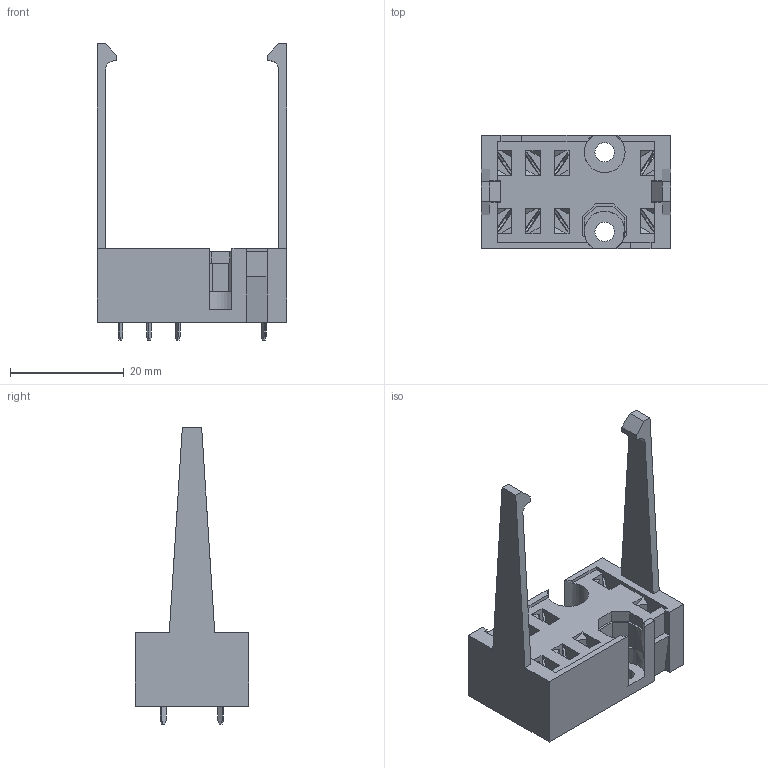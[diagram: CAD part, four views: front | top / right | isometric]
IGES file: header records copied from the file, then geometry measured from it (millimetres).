
Global section: file name: No Iges File Name specified; native system: Autodesk Inventor 2011; preprocessor: AutoDesk Inventor Iges Exporter R2011; author: oey; date: 20100730.101710; units: millimetre
Bounding box: 33.4 x 20 x 52.15 mm (x, y, z)
Volume: 6407.3 mm3; surface area: 6608.3 mm2
Topology: 9 solids, 9 shells, 567 faces, 1566 edges, 1024 vertices
Faces by surface type: plane 389, bspline 101, cylinder 58, revolution 19
